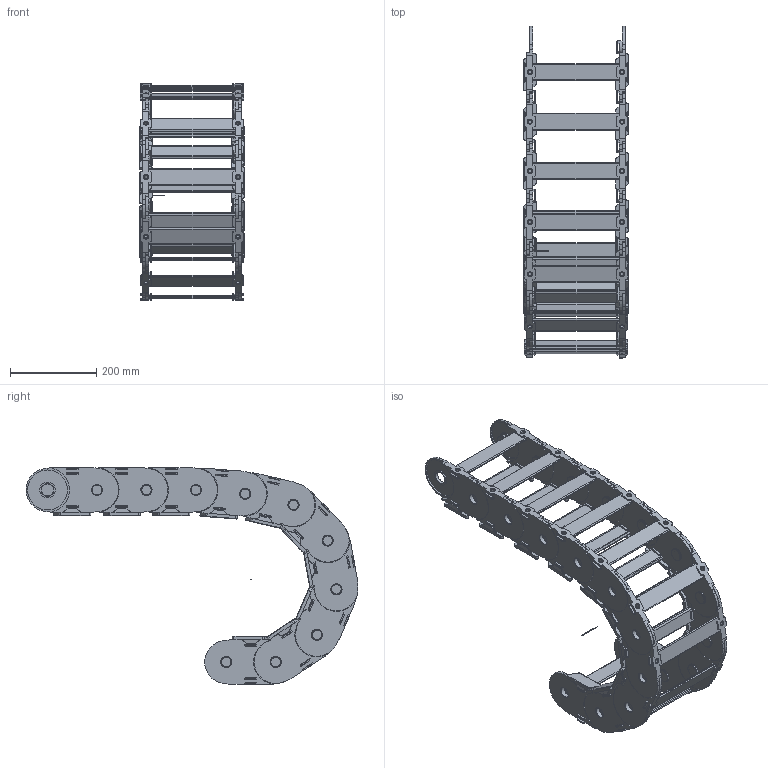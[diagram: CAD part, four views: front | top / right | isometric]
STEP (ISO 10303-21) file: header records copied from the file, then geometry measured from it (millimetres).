
FILE_DESCRIPTION((''),'2;1');
FILE_NAME('C:\Uebbing\TRACE PARTS\PKK\PKK 528\PKK 528 vereinfacht.stp','2013-06-10T15:29:51',('Uebbing'),(''),'Autodesk Inventor 10','Autodesk Inventor 10','');
FILE_SCHEMA(('AUTOMOTIVE_DESIGN { 1 0 10303 214 1 1 1 1 }'));
Length unit declared in the file: millimetre
Products named in the file (3): PKK 528 vereinfacht; Achse; PKK 528 Glied vereinfacht
Assembly tree (11 placements, depth 2):
  PKK 528 vereinfacht
    Achse
    PKK 528 Glied vereinfacht  x10
Bounding box: 243 x 771.39 x 504 mm (x, y, z)
Volume: 3946715.2 mm3; surface area: 1534016.2 mm2
Topology: 11 solids, 11 shells, 4463 faces, 11084 edges, 6803 vertices
Faces by surface type: cylinder 1921, plane 1142, torus 760, bspline 600, sphere 40
Full cylindrical faces by diameter (mm): 1 x1, 8 x20, 24 x20, 30 x40, 37 x40, 93 x40
Entity records: 14336 total; most frequent: CARTESIAN_POINT 3498, DIRECTION 2396, ORIENTED_EDGE 2148, EDGE_CURVE 1074, AXIS2_PLACEMENT_3D 927, VERTEX_POINT 676, VECTOR 542, LINE 542
